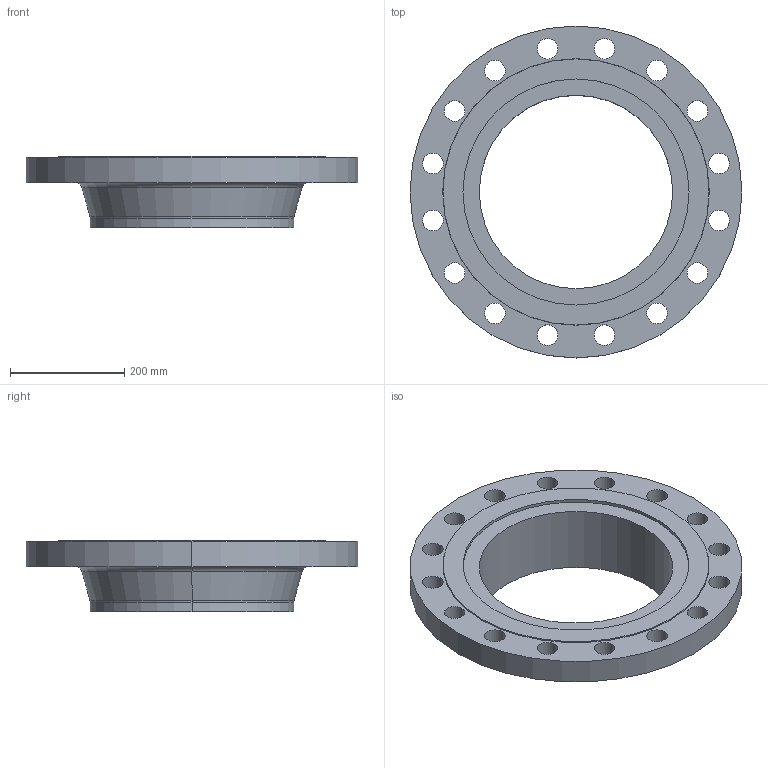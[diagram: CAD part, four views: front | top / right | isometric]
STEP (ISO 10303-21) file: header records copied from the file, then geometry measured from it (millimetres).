
FILE_DESCRIPTION (( 'STEP AP214' ), '1' );
FILE_NAME ('PN40 DN350 Type 11 - Type G Face.STEP', '2019-01-05T21:52:44', ( '' ), ( '' ), 'SwSTEP 2.0', 'SolidWorks 2019', '' );
FILE_SCHEMA (( 'AUTOMOTIVE_DESIGN' ));
Length unit declared in the file: millimetre
Products named in the file (1): PN40 DN350 Type 11 - Type G Face
Bounding box: 580 x 580 x 125 mm (x, y, z)
Volume: 8315834.6 mm3; surface area: 683415 mm2
Topology: 1 solids, 1 shells, 53 faces, 138 edges, 90 vertices
Faces by surface type: cylinder 40, plane 5, torus 4, cone 4
Entity records: 1780 total; most frequent: DIRECTION 340, CARTESIAN_POINT 282, ORIENTED_EDGE 276, AXIS2_PLACEMENT_3D 148, EDGE_CURVE 138, CIRCLE 94, EDGE_LOOP 90, VERTEX_POINT 90
